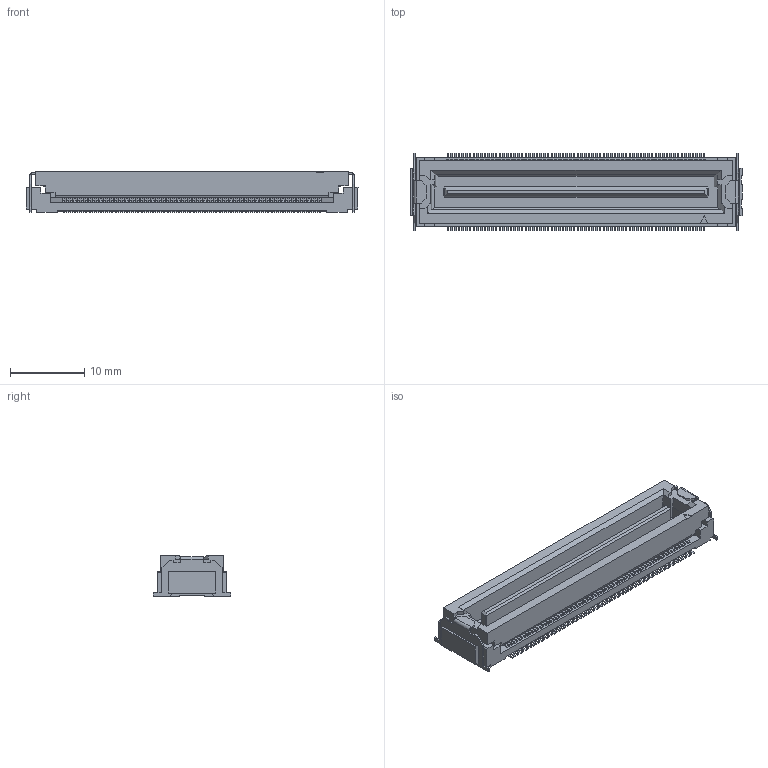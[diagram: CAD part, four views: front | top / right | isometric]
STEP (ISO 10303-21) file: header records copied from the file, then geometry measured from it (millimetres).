
FILE_DESCRIPTION(('Creo Elements/Direct Modeling STEP Export'),'2;1');
FILE_NAME('DT00-140S-T.stp','2017-08-08T19:49:19',(''),(''),'Creo Elements/Direct Modeling STEP processor for AP214 (Solid Model)','Creo Elements/Direct Modeling 19.0F 14-Feb-2017 (C) Parametric Technology GmbH','');
FILE_SCHEMA(('AUTOMOTIVE_DESIGN { 1 0 10303 214 1 1 1 1 }'));
Products named in the file (2): DT00-140S-T
Assembly tree (1 placements, depth 2):
  DT00-140S-T
    DT00-140S-T
Bounding box: 44.7 x 10.38 x 5.5 mm (x, y, z)
Volume: 1296.9 mm3; surface area: 2739.1 mm2
Topology: 1 solids, 1 shells, 4032 faces, 11083 edges, 7194 vertices
Faces by surface type: plane 3176, cylinder 856
Entity records: 124921 total; most frequent: ORIENTED_EDGE 22166, CARTESIAN_POINT 21765, DIRECTION 20030, EDGE_CURVE 11083, VECTOR 9112, LINE 9112, VERTEX_POINT 7194, AXIS2_PLACEMENT_3D 5459
